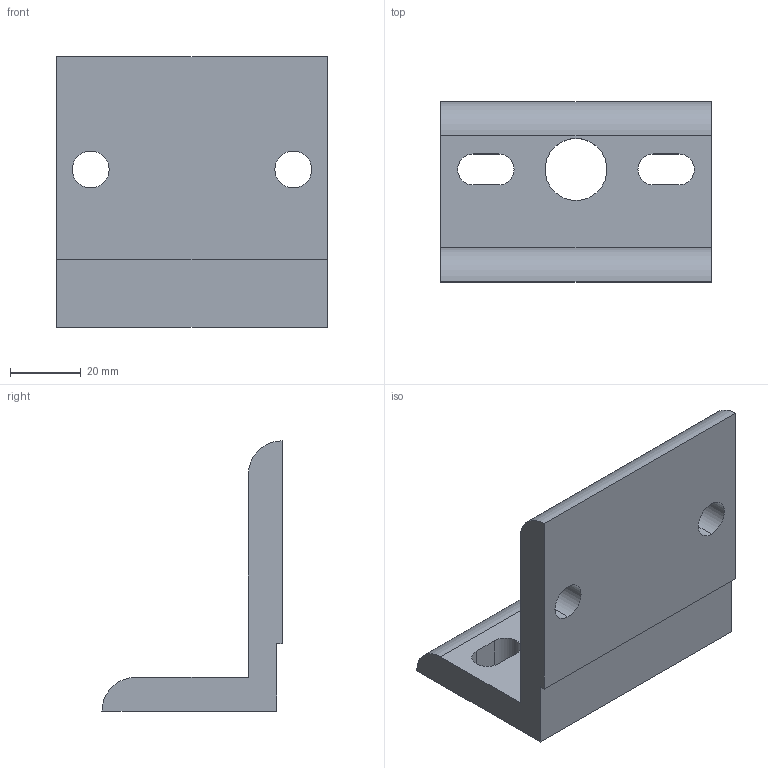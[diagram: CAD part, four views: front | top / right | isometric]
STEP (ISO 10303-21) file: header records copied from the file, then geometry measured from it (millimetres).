
FILE_DESCRIPTION (( 'STEP AP203' ), '1' );
FILE_NAME ('269-18-409.STEP', '2020-03-02T21:01:29', ( '' ), ( '' ), 'SwSTEP 2.0', 'SolidWorks 2017', '' );
FILE_SCHEMA (( 'CONFIG_CONTROL_DESIGN' ));
Length unit declared in the file: inch
Products named in the file (1): 269-18-409
Bounding box: 76.2 x 50.8 x 76.2 mm (x, y, z)
Volume: 73851.8 mm3; surface area: 21465.5 mm2
Topology: 1 solids, 1 shells, 26 faces, 72 edges, 48 vertices
Faces by surface type: cylinder 14, plane 12
Entity records: 943 total; most frequent: DIRECTION 154, CARTESIAN_POINT 147, ORIENTED_EDGE 144, EDGE_CURVE 72, AXIS2_PLACEMENT_3D 55, VERTEX_POINT 48, VECTOR 44, LINE 44
